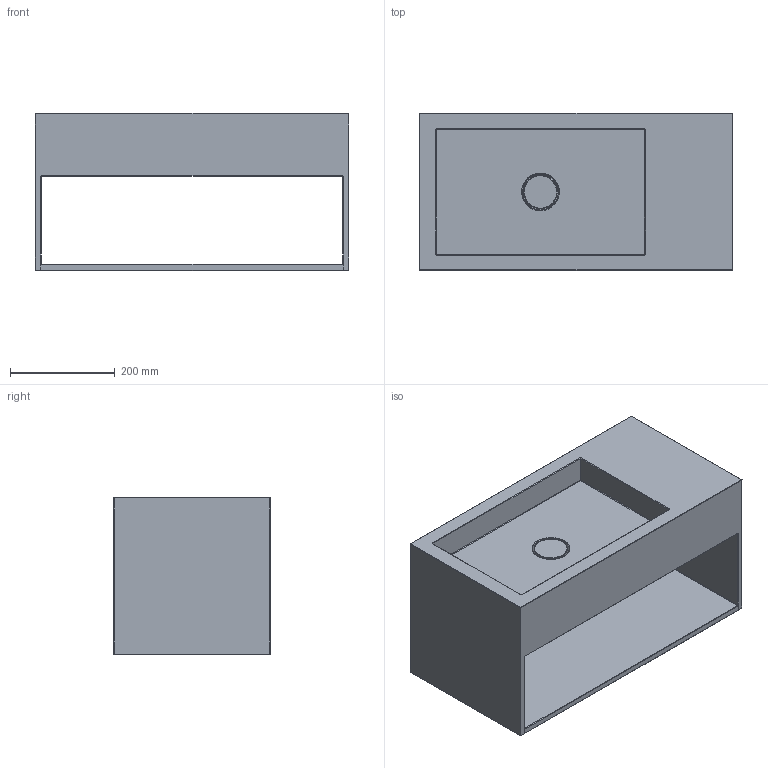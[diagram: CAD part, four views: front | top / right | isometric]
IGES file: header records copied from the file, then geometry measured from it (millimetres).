
Global section: file name: \\Archi-NAS\Comune\X GIOVANNI\SCHEDE PRODOTTO\LAVABI\SOSPESI\CUBANITO\3D\MOMA DESIGN_LAVABI SOSPESI_CUBANITO 3.igs; native system: Rhinoceros ( Jan 17 2018 ); preprocessor: Trout Lake IGES 012 Jan 17 2018; date: 230629.145050; units: millimetre
Bounding box: 600 x 300 x 301 mm (x, y, z)
Surface area: 1321349.7 mm2 (no closed solid volume)
Topology: 0 solids, 0 shells, 94 faces, 604 edges, 584 vertices
Faces by surface type: bspline 94
